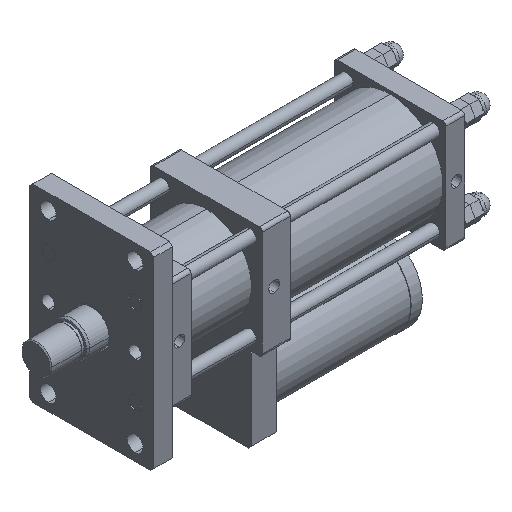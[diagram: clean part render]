
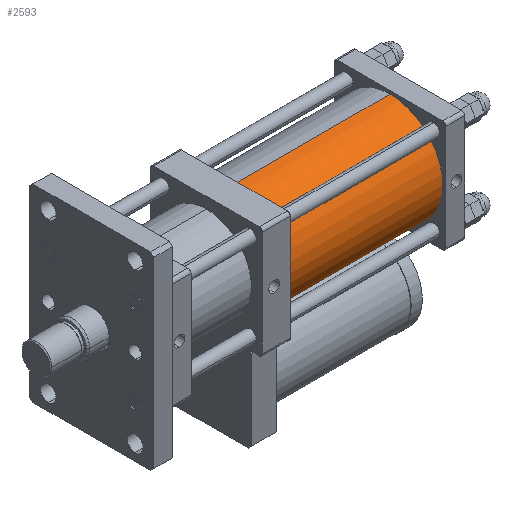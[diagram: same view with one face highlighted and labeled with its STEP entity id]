
A CAD part, isometric view. The second image highlights one B-rep face of the part: STEP entity #2593.
In plain terms, the highlighted cylindrical face has radius 85 mm (diameter 170 mm), a partial arc.
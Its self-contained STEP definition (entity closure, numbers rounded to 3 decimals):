
#85 = DIRECTION ( 'NONE',  ( 0., 0., -1. ) ) ;
#207 = VECTOR ( 'NONE', #1372, 1000. ) ;
#259 = DIRECTION ( 'NONE',  ( -1., 0., 0. ) ) ;
#506 = DIRECTION ( 'NONE',  ( 1., 0., 0. ) ) ;
#754 = ORIENTED_EDGE ( 'NONE', *, *, #8309, .T. ) ;
#893 = LINE ( 'NONE', #2950, #2599 ) ;
#1317 = CARTESIAN_POINT ( 'NONE',  ( 320., 0., -85. ) ) ;
#1372 = DIRECTION ( 'NONE',  ( -1., 0., 0. ) ) ;
#1678 = CARTESIAN_POINT ( 'NONE',  ( 571., 0., 0. ) ) ;
#2593 = ADVANCED_FACE ( 'NONE', ( #5797 ), #3701, .T. ) ;
#2599 = VECTOR ( 'NONE', #6441, 1000. ) ;
#2631 = VERTEX_POINT ( 'NONE', #8554 ) ;
#2950 = CARTESIAN_POINT ( 'NONE',  ( 571., 0., -85. ) ) ;
#3031 = AXIS2_PLACEMENT_3D ( 'NONE', #1678, #259, #3817 ) ;
#3573 = CARTESIAN_POINT ( 'NONE',  ( 571., 0., 85. ) ) ;
#3701 = CYLINDRICAL_SURFACE ( 'NONE', #3031, 85. ) ;
#3796 = CARTESIAN_POINT ( 'NONE',  ( 571., 0., -85. ) ) ;
#3817 = DIRECTION ( 'NONE',  ( 0., 0., 1. ) ) ;
#3958 = ORIENTED_EDGE ( 'NONE', *, *, #6262, .F. ) ;
#4033 = LINE ( 'NONE', #6296, #207 ) ;
#4400 = DIRECTION ( 'NONE',  ( 1., 0., 0. ) ) ;
#4810 = CARTESIAN_POINT ( 'NONE',  ( 320., 0., 0. ) ) ;
#4915 = VERTEX_POINT ( 'NONE', #1317 ) ;
#5061 = EDGE_CURVE ( 'NONE', #8641, #4915, #893, .T. ) ;
#5094 = CIRCLE ( 'NONE', #6261, 85. ) ;
#5231 = EDGE_LOOP ( 'NONE', ( #8743, #3958, #5239, #754 ) ) ;
#5239 = ORIENTED_EDGE ( 'NONE', *, *, #6704, .T. ) ;
#5432 = VERTEX_POINT ( 'NONE', #3573 ) ;
#5529 = DIRECTION ( 'NONE',  ( 0., 0., -1. ) ) ;
#5797 = FACE_OUTER_BOUND ( 'NONE', #5231, .T. ) ;
#5915 = CIRCLE ( 'NONE', #6966, 85. ) ;
#6261 = AXIS2_PLACEMENT_3D ( 'NONE', #4810, #506, #5529 ) ;
#6262 = EDGE_CURVE ( 'NONE', #5432, #8641, #5915, .T. ) ;
#6296 = CARTESIAN_POINT ( 'NONE',  ( 571., 0., 85. ) ) ;
#6441 = DIRECTION ( 'NONE',  ( -1., 0., 0. ) ) ;
#6704 = EDGE_CURVE ( 'NONE', #5432, #2631, #4033, .T. ) ;
#6966 = AXIS2_PLACEMENT_3D ( 'NONE', #8389, #4400, #85 ) ;
#8309 = EDGE_CURVE ( 'NONE', #2631, #4915, #5094, .T. ) ;
#8389 = CARTESIAN_POINT ( 'NONE',  ( 571., 0., 0. ) ) ;
#8554 = CARTESIAN_POINT ( 'NONE',  ( 320., 0., 85. ) ) ;
#8641 = VERTEX_POINT ( 'NONE', #3796 ) ;
#8743 = ORIENTED_EDGE ( 'NONE', *, *, #5061, .F. ) ;
